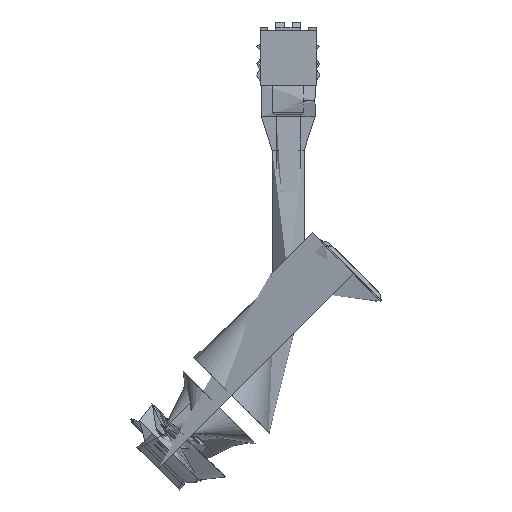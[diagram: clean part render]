
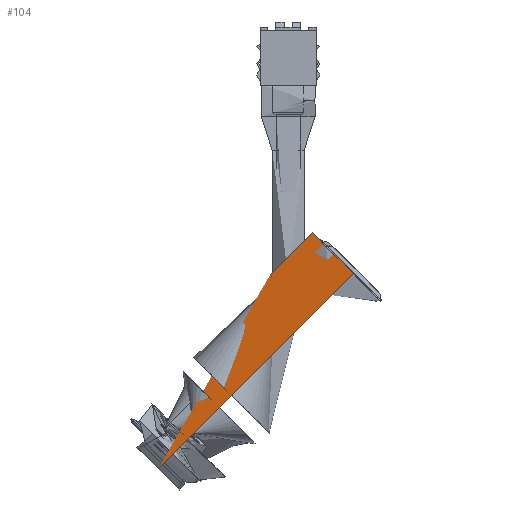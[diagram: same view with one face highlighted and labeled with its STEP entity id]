
A CAD part, left-side view. The second image highlights one B-rep face of the part: STEP entity #104.
In plain terms, the highlighted free-form (B-spline) face has degree [2, 1] with [9, 2] control points.
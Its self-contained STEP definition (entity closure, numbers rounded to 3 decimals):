
#104=ADVANCED_FACE('',(#609),#8014,.T.);
#609=FACE_OUTER_BOUND('',#1114,.T.);
#1114=EDGE_LOOP('',(#1664,#1665,#1666,#1667,#1668,#1669,#1670,#1671));
#1664=ORIENTED_EDGE('',*,*,#4396,.T.);
#1665=ORIENTED_EDGE('',*,*,#4397,.T.);
#1666=ORIENTED_EDGE('',*,*,#4398,.T.);
#1667=ORIENTED_EDGE('',*,*,#4399,.T.);
#1668=ORIENTED_EDGE('',*,*,#4400,.T.);
#1669=ORIENTED_EDGE('',*,*,#4401,.T.);
#1670=ORIENTED_EDGE('',*,*,#4402,.T.);
#1671=ORIENTED_EDGE('',*,*,#4403,.T.);
#4396=EDGE_CURVE('',#7143,#7144,#6710,.T.);
#4397=EDGE_CURVE('',#7144,#7145,#5765,.T.);
#4398=EDGE_CURVE('',#7145,#7146,#6711,.T.);
#4399=EDGE_CURVE('',#7146,#7147,#5766,.T.);
#4400=EDGE_CURVE('',#7147,#7148,#6712,.T.);
#4401=EDGE_CURVE('',#7148,#7149,#5767,.T.);
#4402=EDGE_CURVE('',#7149,#7150,#5768,.T.);
#4403=EDGE_CURVE('',#7150,#7143,#5769,.T.);
#5765=B_SPLINE_CURVE_WITH_KNOTS('',1,(#10226,#10227),.UNSPECIFIED.,.F.,
 .F.,(2,2),(0.,80.),.UNSPECIFIED.);
#5766=B_SPLINE_CURVE_WITH_KNOTS('',1,(#10233,#10234),.UNSPECIFIED.,.F.,
 .F.,(2,2),(0.,80.),.UNSPECIFIED.);
#5767=B_SPLINE_CURVE_WITH_KNOTS('',1,(#10238,#10239),.UNSPECIFIED.,.F.,
 .F.,(2,2),(0.,17.5),.UNSPECIFIED.);
#5768=B_SPLINE_CURVE_WITH_KNOTS('',3,(#10240,#10241,#10242,#10243,#10244,
#10245,#10246,#10247,#10248,#10249,#10250,#10251,#10252,#10253,#10254,#10255,
#10256,#10257,#10258,#10259,#10260,#10261,#10262,#10263,#10264,#10265,#10266,
#10267,#10268,#10269,#10270,#10271,#10272,#10273),.UNSPECIFIED.,.F.,.F.,
(4,2,2,2,2,2,2,2,2,2,2,2,2,2,2,2,4),(0.,0.989,1.977,
2.966,3.954,4.943,5.932,6.92,
7.909,8.897,9.886,10.874,11.863,
12.852,13.84,14.829,15.817),
 .UNSPECIFIED.);
#5769=B_SPLINE_CURVE_WITH_KNOTS('',1,(#10274,#10275),.UNSPECIFIED.,.F.,
 .F.,(2,2),(0.,17.5),.UNSPECIFIED.);
#6710=(
BOUNDED_CURVE()
B_SPLINE_CURVE(2,(#10223,#10224,#10225),.UNSPECIFIED.,.F.,.F.)
B_SPLINE_CURVE_WITH_KNOTS((3,3),(0.,22.418),.UNSPECIFIED.)
CURVE()
GEOMETRIC_REPRESENTATION_ITEM()
RATIONAL_B_SPLINE_CURVE((1.,0.802,1.))
REPRESENTATION_ITEM('')
);
#6711=(
BOUNDED_CURVE()
B_SPLINE_CURVE(2,(#10228,#10229,#10230,#10231,#10232),.UNSPECIFIED.,.F.,
 .F.)
B_SPLINE_CURVE_WITH_KNOTS((3,2,3),(0.,27.489,54.978),
 .UNSPECIFIED.)
CURVE()
GEOMETRIC_REPRESENTATION_ITEM()
RATIONAL_B_SPLINE_CURVE((1.,0.707,1.,0.707,1.))
REPRESENTATION_ITEM('')
);
#6712=(
BOUNDED_CURVE()
B_SPLINE_CURVE(2,(#10235,#10236,#10237),.UNSPECIFIED.,.F.,.F.)
B_SPLINE_CURVE_WITH_KNOTS((3,3),(0.,22.418),.UNSPECIFIED.)
CURVE()
GEOMETRIC_REPRESENTATION_ITEM()
RATIONAL_B_SPLINE_CURVE((1.,0.802,1.))
REPRESENTATION_ITEM('')
);
#7143=VERTEX_POINT('',#10160);
#7144=VERTEX_POINT('',#10161);
#7145=VERTEX_POINT('',#10162);
#7146=VERTEX_POINT('',#10163);
#7147=VERTEX_POINT('',#10164);
#7148=VERTEX_POINT('',#10165);
#7149=VERTEX_POINT('',#10166);
#7150=VERTEX_POINT('',#10167);
#8014=(
BOUNDED_SURFACE()
B_SPLINE_SURFACE(2,1,((#9119,#9120),(#9121,#9122),(#9123,#9124),(#9125,
#9126),(#9127,#9128),(#9129,#9130),(#9131,#9132),(#9133,#9134),(#9135,#9136)),
 .UNSPECIFIED.,.T.,.F.,.F.)
B_SPLINE_SURFACE_WITH_KNOTS((3,2,2,2,3),(2,2),(0.,1.571,3.142,
4.712,6.283),(0.,96.),.UNSPECIFIED.)
GEOMETRIC_REPRESENTATION_ITEM()
RATIONAL_B_SPLINE_SURFACE(((1.,1.),(0.707,0.707),
(1.,1.),(0.707,0.707),(1.,1.),(0.707,
0.707),(1.,1.),(0.707,0.707),(1.,1.)))
REPRESENTATION_ITEM('')
SURFACE()
);
#9119=CARTESIAN_POINT('',(-21.526,-101.279,150.088));
#9120=CARTESIAN_POINT('',(-21.526,-33.397,82.206));
#9121=CARTESIAN_POINT('',(-39.026,-101.279,150.088));
#9122=CARTESIAN_POINT('',(-39.026,-33.397,82.206));
#9123=CARTESIAN_POINT('',(-39.026,-88.905,162.463));
#9124=CARTESIAN_POINT('',(-39.026,-21.022,94.58));
#9125=CARTESIAN_POINT('',(-39.026,-76.53,174.837));
#9126=CARTESIAN_POINT('',(-39.026,-8.648,106.955));
#9127=CARTESIAN_POINT('',(-21.526,-76.53,174.837));
#9128=CARTESIAN_POINT('',(-21.526,-8.648,106.955));
#9129=CARTESIAN_POINT('',(-4.026,-76.53,174.837));
#9130=CARTESIAN_POINT('',(-4.026,-8.648,106.955));
#9131=CARTESIAN_POINT('',(-4.026,-88.905,162.463));
#9132=CARTESIAN_POINT('',(-4.026,-21.022,94.58));
#9133=CARTESIAN_POINT('',(-4.026,-101.279,150.088));
#9134=CARTESIAN_POINT('',(-4.026,-33.397,82.206));
#9135=CARTESIAN_POINT('',(-21.526,-101.279,150.088));
#9136=CARTESIAN_POINT('',(-21.526,-33.397,82.206));
#10160=CARTESIAN_POINT('',(-16.526,-71.389,168.664));
#10161=CARTESIAN_POINT('',(-4.026,-83.248,156.806));
#10162=CARTESIAN_POINT('',(-4.026,-26.679,100.237));
#10163=CARTESIAN_POINT('',(-39.026,-26.679,100.237));
#10164=CARTESIAN_POINT('',(-39.026,-83.248,156.806));
#10165=CARTESIAN_POINT('',(-26.526,-71.389,168.664));
#10166=CARTESIAN_POINT('',(-26.526,-59.015,156.29));
#10167=CARTESIAN_POINT('',(-16.526,-59.015,156.29));
#10223=CARTESIAN_POINT('',(-16.526,-71.389,168.664));
#10224=CARTESIAN_POINT('',(-4.026,-74.025,166.029));
#10225=CARTESIAN_POINT('',(-4.026,-83.248,156.806));
#10226=CARTESIAN_POINT('',(-4.026,-83.248,156.806));
#10227=CARTESIAN_POINT('',(-4.026,-26.679,100.237));
#10228=CARTESIAN_POINT('',(-4.026,-26.679,100.237));
#10229=CARTESIAN_POINT('',(-4.026,-14.305,112.611));
#10230=CARTESIAN_POINT('',(-21.526,-14.305,112.611));
#10231=CARTESIAN_POINT('',(-39.026,-14.305,112.611));
#10232=CARTESIAN_POINT('',(-39.026,-26.679,100.237));
#10233=CARTESIAN_POINT('',(-39.026,-26.679,100.237));
#10234=CARTESIAN_POINT('',(-39.026,-83.248,156.806));
#10235=CARTESIAN_POINT('',(-39.026,-83.248,156.806));
#10236=CARTESIAN_POINT('',(-39.026,-74.025,166.029));
#10237=CARTESIAN_POINT('',(-26.526,-71.389,168.664));
#10238=CARTESIAN_POINT('',(-26.526,-71.389,168.664));
#10239=CARTESIAN_POINT('',(-26.526,-59.015,156.29));
#10240=CARTESIAN_POINT('',(-26.526,-59.015,156.29));
#10241=CARTESIAN_POINT('',(-26.526,-58.78,156.055));
#10242=CARTESIAN_POINT('',(-26.493,-58.543,155.831));
#10243=CARTESIAN_POINT('',(-26.365,-58.063,155.405));
#10244=CARTESIAN_POINT('',(-26.268,-57.818,155.199));
#10245=CARTESIAN_POINT('',(-26.017,-57.342,154.821));
#10246=CARTESIAN_POINT('',(-25.863,-57.111,154.647));
#10247=CARTESIAN_POINT('',(-25.501,-56.665,154.326));
#10248=CARTESIAN_POINT('',(-25.291,-56.451,154.18));
#10249=CARTESIAN_POINT('',(-24.833,-56.06,153.922));
#10250=CARTESIAN_POINT('',(-24.583,-55.881,153.81));
#10251=CARTESIAN_POINT('',(-24.037,-55.56,153.613));
#10252=CARTESIAN_POINT('',(-23.749,-55.423,153.532));
#10253=CARTESIAN_POINT('',(-23.149,-55.199,153.402));
#10254=CARTESIAN_POINT('',(-22.833,-55.111,153.353));
#10255=CARTESIAN_POINT('',(-22.185,-54.993,153.287));
#10256=CARTESIAN_POINT('',(-21.858,-54.964,153.27));
#10257=CARTESIAN_POINT('',(-21.194,-54.964,153.27));
#10258=CARTESIAN_POINT('',(-20.867,-54.993,153.287));
#10259=CARTESIAN_POINT('',(-20.226,-55.109,153.352));
#10260=CARTESIAN_POINT('',(-19.908,-55.197,153.401));
#10261=CARTESIAN_POINT('',(-19.304,-55.422,153.532));
#10262=CARTESIAN_POINT('',(-19.017,-55.558,153.612));
#10263=CARTESIAN_POINT('',(-18.475,-55.876,153.807));
#10264=CARTESIAN_POINT('',(-18.22,-56.058,153.922));
#10265=CARTESIAN_POINT('',(-17.761,-56.449,154.179));
#10266=CARTESIAN_POINT('',(-17.555,-56.66,154.322));
#10267=CARTESIAN_POINT('',(-17.19,-57.109,154.645));
#10268=CARTESIAN_POINT('',(-17.035,-57.341,154.82));
#10269=CARTESIAN_POINT('',(-16.785,-57.814,155.196));
#10270=CARTESIAN_POINT('',(-16.688,-58.057,155.399));
#10271=CARTESIAN_POINT('',(-16.558,-58.542,155.83));
#10272=CARTESIAN_POINT('',(-16.526,-58.78,156.055));
#10273=CARTESIAN_POINT('',(-16.526,-59.015,156.29));
#10274=CARTESIAN_POINT('',(-16.526,-59.015,156.29));
#10275=CARTESIAN_POINT('',(-16.526,-71.389,168.664));
